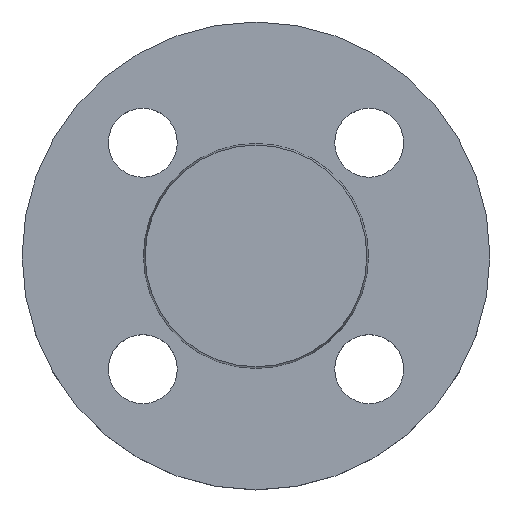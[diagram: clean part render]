
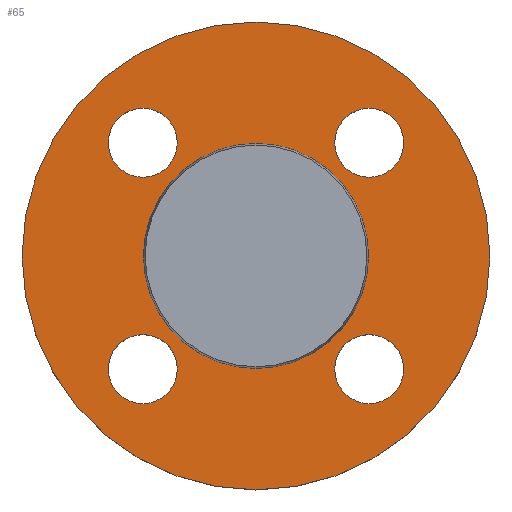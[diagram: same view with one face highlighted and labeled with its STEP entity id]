
A CAD part, top view. The second image highlights one B-rep face of the part: STEP entity #65.
In plain terms, the highlighted planar face has unit normal (0, 0, 1).
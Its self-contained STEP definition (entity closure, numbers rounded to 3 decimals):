
#8 = CIRCLE ( 'NONE', #479, 7. ) ;
#9 = CARTESIAN_POINT ( 'NONE',  ( 15.981, 22.981, -2. ) ) ;
#11 = EDGE_CURVE ( 'NONE', #203, #236, #184, .T. ) ;
#12 = CARTESIAN_POINT ( 'NONE',  ( 22.981, 22.981, -2. ) ) ;
#14 = AXIS2_PLACEMENT_3D ( 'NONE', #181, #182, #183 ) ;
#15 = DIRECTION ( 'NONE',  ( 0., 0., -1. ) ) ;
#17 = DIRECTION ( 'NONE',  ( 1., 0., 0. ) ) ;
#18 = CARTESIAN_POINT ( 'NONE',  ( 15.981, -22.981, -2. ) ) ;
#20 = CARTESIAN_POINT ( 'NONE',  ( -22.981, -22.981, -2. ) ) ;
#22 = CIRCLE ( 'NONE', #430, 22.853 ) ;
#24 = DIRECTION ( 'NONE',  ( 0., 0., -1. ) ) ;
#28 = DIRECTION ( 'NONE',  ( 1., 0., 0. ) ) ;
#37 = FACE_BOUND ( 'NONE', #215, .T. ) ;
#40 = CIRCLE ( 'NONE', #518, 47.5 ) ;
#41 = CIRCLE ( 'NONE', #594, 7. ) ;
#54 = AXIS2_PLACEMENT_3D ( 'NONE', #612, #614, #615 ) ;
#65 = ADVANCED_FACE ( 'NONE', ( #160, #130, #37, #472, #473, #476 ), #477, .T. ) ;
#107 = EDGE_CURVE ( 'NONE', #197, #371, #40, .T. ) ;
#115 = CIRCLE ( 'NONE', #391, 7. ) ;
#130 = FACE_BOUND ( 'NONE', #381, .T. ) ;
#135 = AXIS2_PLACEMENT_3D ( 'NONE', #481, #482, #483 ) ;
#138 = EDGE_CURVE ( 'NONE', #224, #376, #41, .T. ) ;
#149 = CIRCLE ( 'NONE', #459, 7. ) ;
#150 = EDGE_CURVE ( 'NONE', #199, #258, #627, .T. ) ;
#160 = FACE_BOUND ( 'NONE', #205, .T. ) ;
#162 = EDGE_CURVE ( 'NONE', #403, #413, #149, .T. ) ;
#165 = CIRCLE ( 'NONE', #54, 22.853 ) ;
#176 = CIRCLE ( 'NONE', #14, 47.5 ) ;
#179 = EDGE_CURVE ( 'NONE', #223, #378, #165, .T. ) ;
#181 = CARTESIAN_POINT ( 'NONE',  ( 0., 0., -2. ) ) ;
#182 = DIRECTION ( 'NONE',  ( 0., 0., -1. ) ) ;
#183 = DIRECTION ( 'NONE',  ( -1., 0., 0. ) ) ;
#184 = CIRCLE ( 'NONE', #534, 7. ) ;
#197 = VERTEX_POINT ( 'NONE', #626 ) ;
#199 = VERTEX_POINT ( 'NONE', #633 ) ;
#202 = AXIS2_PLACEMENT_3D ( 'NONE', #20, #24, #28 ) ;
#203 = VERTEX_POINT ( 'NONE', #635 ) ;
#204 = EDGE_LOOP ( 'NONE', ( #305, #308 ) ) ;
#205 = EDGE_LOOP ( 'NONE', ( #289, #290 ) ) ;
#208 = EDGE_LOOP ( 'NONE', ( #297, #301 ) ) ;
#215 = EDGE_LOOP ( 'NONE', ( #294, #296 ) ) ;
#223 = VERTEX_POINT ( 'NONE', #382 ) ;
#224 = VERTEX_POINT ( 'NONE', #461 ) ;
#236 = VERTEX_POINT ( 'NONE', #9 ) ;
#240 = EDGE_CURVE ( 'NONE', #236, #203, #8, .T. ) ;
#243 = CARTESIAN_POINT ( 'NONE',  ( 47.5, 0., -2. ) ) ;
#258 = VERTEX_POINT ( 'NONE', #18 ) ;
#262 = EDGE_CURVE ( 'NONE', #413, #403, #572, .T. ) ;
#270 = CARTESIAN_POINT ( 'NONE',  ( -15.981, 22.981, -2. ) ) ;
#275 = CARTESIAN_POINT ( 'NONE',  ( -22.853, 0., -2. ) ) ;
#289 = ORIENTED_EDGE ( 'NONE', *, *, #150, .T. ) ;
#290 = ORIENTED_EDGE ( 'NONE', *, *, #407, .T. ) ;
#292 = ORIENTED_EDGE ( 'NONE', *, *, #162, .T. ) ;
#293 = ORIENTED_EDGE ( 'NONE', *, *, #262, .T. ) ;
#294 = ORIENTED_EDGE ( 'NONE', *, *, #419, .T. ) ;
#296 = ORIENTED_EDGE ( 'NONE', *, *, #138, .T. ) ;
#297 = ORIENTED_EDGE ( 'NONE', *, *, #11, .T. ) ;
#301 = ORIENTED_EDGE ( 'NONE', *, *, #240, .T. ) ;
#303 = ORIENTED_EDGE ( 'NONE', *, *, #498, .T. ) ;
#304 = ORIENTED_EDGE ( 'NONE', *, *, #179, .T. ) ;
#305 = ORIENTED_EDGE ( 'NONE', *, *, #350, .F. ) ;
#308 = ORIENTED_EDGE ( 'NONE', *, *, #107, .F. ) ;
#350 = EDGE_CURVE ( 'NONE', #371, #197, #176, .T. ) ;
#371 = VERTEX_POINT ( 'NONE', #243 ) ;
#376 = VERTEX_POINT ( 'NONE', #270 ) ;
#378 = VERTEX_POINT ( 'NONE', #275 ) ;
#381 = EDGE_LOOP ( 'NONE', ( #292, #293 ) ) ;
#382 = CARTESIAN_POINT ( 'NONE',  ( 22.853, 0., -2. ) ) ;
#384 = CARTESIAN_POINT ( 'NONE',  ( -15.981, -22.981, -2. ) ) ;
#388 = CARTESIAN_POINT ( 'NONE',  ( 22.981, -22.981, -2. ) ) ;
#391 = AXIS2_PLACEMENT_3D ( 'NONE', #438, #443, #447 ) ;
#395 = DIRECTION ( 'NONE',  ( 0., 0., -1. ) ) ;
#402 = DIRECTION ( 'NONE',  ( 1., 0., 0. ) ) ;
#403 = VERTEX_POINT ( 'NONE', #384 ) ;
#405 = CARTESIAN_POINT ( 'NONE',  ( -29.981, -22.981, -2. ) ) ;
#407 = EDGE_CURVE ( 'NONE', #258, #199, #586, .T. ) ;
#413 = VERTEX_POINT ( 'NONE', #405 ) ;
#415 = EDGE_LOOP ( 'NONE', ( #303, #304 ) ) ;
#419 = EDGE_CURVE ( 'NONE', #376, #224, #115, .T. ) ;
#428 = CARTESIAN_POINT ( 'NONE',  ( 22.981, 22.981, -2. ) ) ;
#430 = AXIS2_PLACEMENT_3D ( 'NONE', #510, #522, #525 ) ;
#431 = DIRECTION ( 'NONE',  ( 0., 0., -1. ) ) ;
#432 = DIRECTION ( 'NONE',  ( 1., 0., 0. ) ) ;
#438 = CARTESIAN_POINT ( 'NONE',  ( -22.981, 22.981, -2. ) ) ;
#443 = DIRECTION ( 'NONE',  ( 0., 0., -1. ) ) ;
#447 = DIRECTION ( 'NONE',  ( 1., 0., 0. ) ) ;
#459 = AXIS2_PLACEMENT_3D ( 'NONE', #574, #575, #576 ) ;
#461 = CARTESIAN_POINT ( 'NONE',  ( -29.981, 22.981, -2. ) ) ;
#472 = FACE_BOUND ( 'NONE', #208, .T. ) ;
#473 = FACE_BOUND ( 'NONE', #415, .T. ) ;
#476 = FACE_OUTER_BOUND ( 'NONE', #204, .T. ) ;
#477 = PLANE ( 'NONE',  #135 ) ;
#479 = AXIS2_PLACEMENT_3D ( 'NONE', #12, #15, #17 ) ;
#481 = CARTESIAN_POINT ( 'NONE',  ( 22.853, 0., -2. ) ) ;
#482 = DIRECTION ( 'NONE',  ( 0., 0., 1. ) ) ;
#483 = DIRECTION ( 'NONE',  ( 1., 0., 0. ) ) ;
#492 = AXIS2_PLACEMENT_3D ( 'NONE', #388, #395, #402 ) ;
#498 = EDGE_CURVE ( 'NONE', #378, #223, #22, .T. ) ;
#510 = CARTESIAN_POINT ( 'NONE',  ( 0., 0., -2. ) ) ;
#518 = AXIS2_PLACEMENT_3D ( 'NONE', #519, #524, #526 ) ;
#519 = CARTESIAN_POINT ( 'NONE',  ( 0., 0., -2. ) ) ;
#522 = DIRECTION ( 'NONE',  ( 0., 0., -1. ) ) ;
#524 = DIRECTION ( 'NONE',  ( 0., 0., -1. ) ) ;
#525 = DIRECTION ( 'NONE',  ( -1., 0., 0. ) ) ;
#526 = DIRECTION ( 'NONE',  ( -1., 0., 0. ) ) ;
#534 = AXIS2_PLACEMENT_3D ( 'NONE', #428, #431, #432 ) ;
#554 = AXIS2_PLACEMENT_3D ( 'NONE', #562, #563, #565 ) ;
#555 = CARTESIAN_POINT ( 'NONE',  ( -22.981, 22.981, -2. ) ) ;
#556 = DIRECTION ( 'NONE',  ( 0., 0., -1. ) ) ;
#561 = DIRECTION ( 'NONE',  ( 1., 0., 0. ) ) ;
#562 = CARTESIAN_POINT ( 'NONE',  ( 22.981, -22.981, -2. ) ) ;
#563 = DIRECTION ( 'NONE',  ( 0., 0., -1. ) ) ;
#565 = DIRECTION ( 'NONE',  ( 1., 0., 0. ) ) ;
#572 = CIRCLE ( 'NONE', #202, 7. ) ;
#574 = CARTESIAN_POINT ( 'NONE',  ( -22.981, -22.981, -2. ) ) ;
#575 = DIRECTION ( 'NONE',  ( 0., 0., -1. ) ) ;
#576 = DIRECTION ( 'NONE',  ( 1., 0., 0. ) ) ;
#586 = CIRCLE ( 'NONE', #492, 7. ) ;
#594 = AXIS2_PLACEMENT_3D ( 'NONE', #555, #556, #561 ) ;
#612 = CARTESIAN_POINT ( 'NONE',  ( 0., 0., -2. ) ) ;
#614 = DIRECTION ( 'NONE',  ( 0., 0., -1. ) ) ;
#615 = DIRECTION ( 'NONE',  ( -1., 0., 0. ) ) ;
#626 = CARTESIAN_POINT ( 'NONE',  ( -47.5, 0., -2. ) ) ;
#627 = CIRCLE ( 'NONE', #554, 7. ) ;
#633 = CARTESIAN_POINT ( 'NONE',  ( 29.981, -22.981, -2. ) ) ;
#635 = CARTESIAN_POINT ( 'NONE',  ( 29.981, 22.981, -2. ) ) ;
